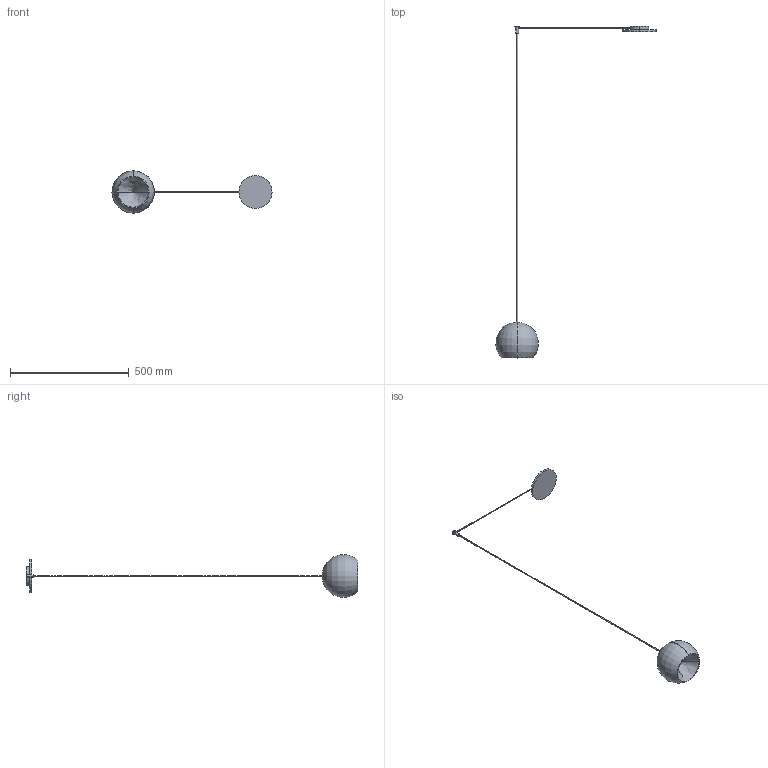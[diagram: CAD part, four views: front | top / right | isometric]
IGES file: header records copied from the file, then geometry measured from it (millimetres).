
Start section: SolidWorks IGES file using analytic representation for surfaces
Global section: file name: Y:\eforma\TECNICO\SOLIDWORKS\E-FORMA\09-LAMPADE\CHERRY\02 parts\CHR01-00-CHERRY_1 sospensione.IGS; native system: SolidWorks 2022; preprocessor: SolidWorks 2022; author: eforma.tech; date: 250506.081444; units: millimetre
Bounding box: 675.72 x 1400 x 179.44 mm (x, y, z)
Volume: 432179.8 mm3; surface area: 271138 mm2
Topology: 6 solids, 6 shells, 43 faces, 88 edges, 56 vertices
Faces by surface type: revolution 28, plane 15
